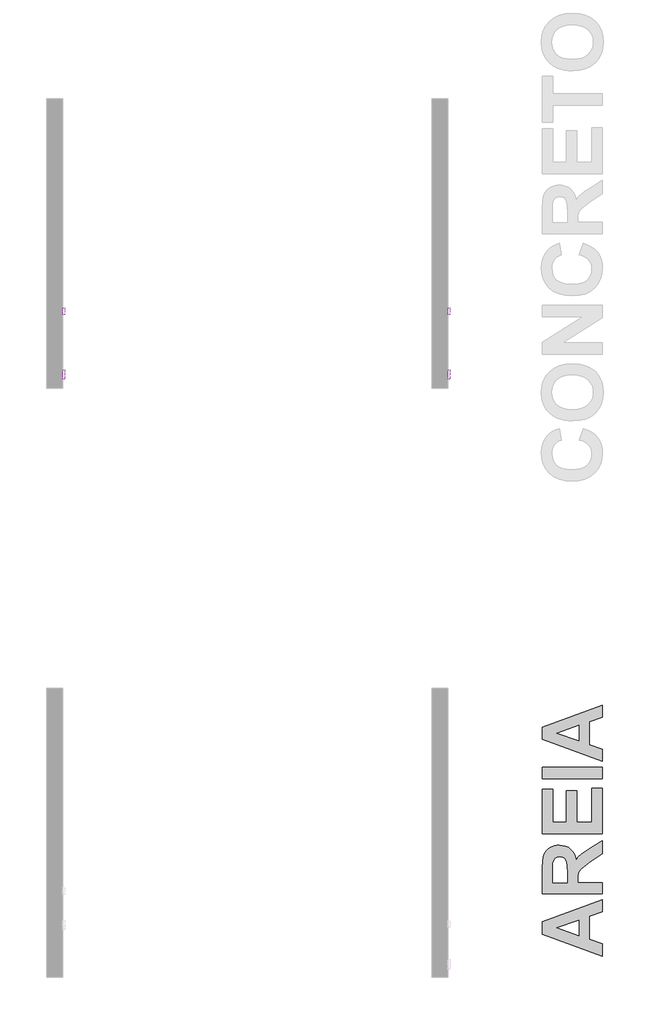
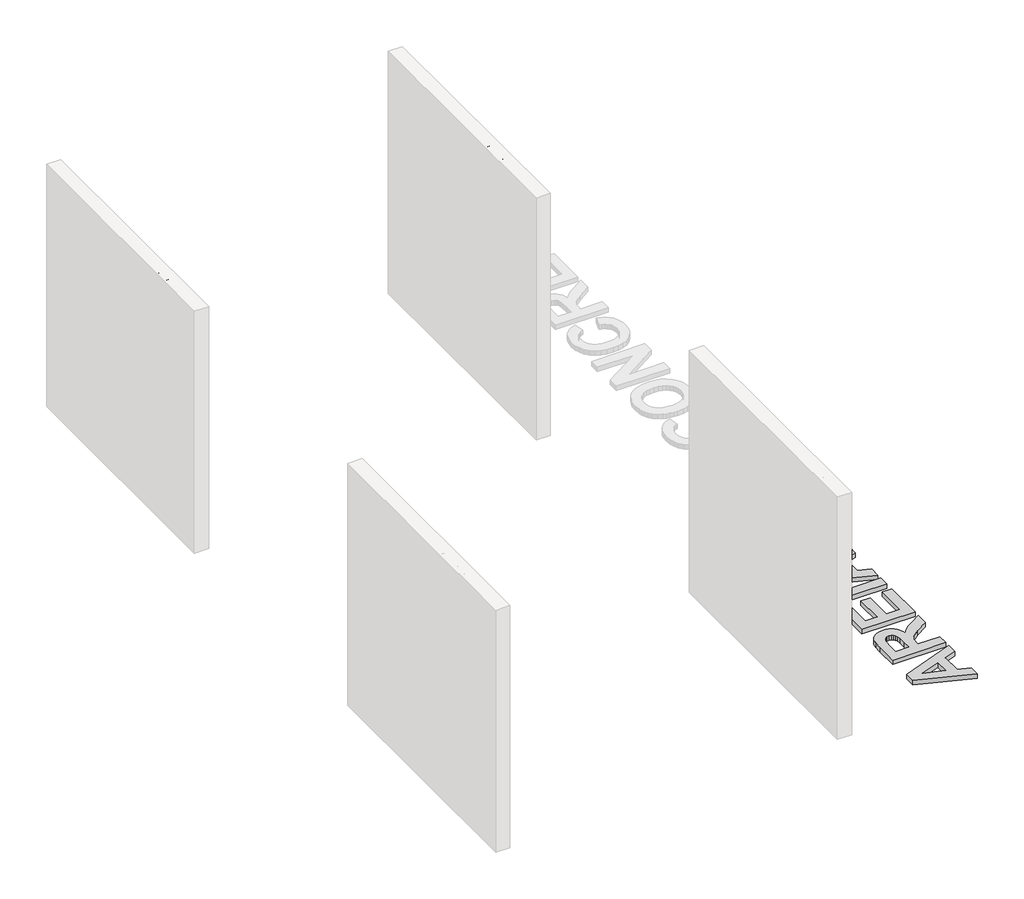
# One storey, part 2 of 6: 5 proxies.
"""IFC4 building model written with IfcOpenShell, lengths in millimetres."""

from ifc_helpers import new_model, si_unit, frame, origin, origin_with_axes, place, context, project, spatial, polyline, outline, extrude, element, save

model = new_model("IFC4")

# Units and contexts
model_context = context("Model", 3, world=origin())
ifc_project = project(units=[si_unit("LENGTHUNIT", "METRE", prefix="MILLI")], contexts=[model_context])

# Site, building, storey
site = spatial("IfcSite", under=ifc_project)
building = spatial("IfcBuilding", under=site)
storey = spatial("IfcBuildingStorey", under=building, Name="PORTOBELLO - SHOWROOM", Elevation=0.0)

# Proxies
placement = place(None, origin())
element("IfcBuildingElementProxy", 1, Name="10mm Arial", ObjectType="10mm Arial", at=placement, inside=storey, context=model_context, shape_type="SweptSolid", body=[
    extrude(outline(polyline([(-3637.3091823, 2554.1836467), (-3624.7521435, 2550.9462851), (-3630.5462849, 2536.3137787), (-3639.6391016, 2525.6237411), (-3651.5830037, 2519.0846386), (-3665.9304015, 2516.9049378), (-3680.4954628, 2518.5542754), (-3692.0622859, 2523.5022883), (-3700.928242, 2531.5772981), (-3707.3907024, 2542.6076265), (-3712.6514149, 2569.4630122), (-3711.1645585, 2584.110847), (-3706.7039893, 2596.7598562), (-3699.5026993, 2607.0084355), (-3689.7936803, 2614.4549802), (-3678.2789738, 2618.9891258), (-3665.6606214, 2620.5005077), (-3651.8926377, 2618.5446017), (-3640.5097556, 2612.6768839), (-3631.8675944, 2603.2591048), (-3626.3217734, 2590.6530151), (-3638.8788121, 2587.6609082), (-3649.179508, 2603.0996893), (-3666.1511307, 2607.9434689), (-3685.7960293, 2602.5723918), (-3696.8938028, 2588.1514175), (-3700.0943761, 2569.4875377), (-3696.3051916, 2547.8560763), (-3684.5084423, 2534.0359761), (-3667.1812003, 2529.4619766), (-3656.6996291, 2531.0193437), (-3647.9654974, 2535.691445), (-3641.3712127, 2543.4292297), (-3637.3091823, 2554.1836467)])), frame((-22426.2609603, 0.0, 0.0), z_axis=(1.0, 0.0, 0.0), x_axis=(0.0, 1.0, 0.0)), (0.0, 0.0, 1.0), 20.0),
    extrude(outline(polyline([(-3612.1951048, 2555.360869), (-3609.4789094, 2573.1479635), (-3601.3303232, 2585.64982), (-3591.2626192, 2591.7750552), (-3579.2083525, 2593.8168003), (-3566.0167173, 2591.3305311), (-3555.4799638, 2583.8717237), (-3548.5729794, 2572.0289891), (-3546.2706512, 2556.3909386), (-3550.3418786, 2534.0482388), (-3562.1999416, 2521.4053609), (-3579.2083525, 2516.9049378), (-3592.5594033, 2519.3820099), (-3603.083894, 2526.8132262), (-3609.9173021, 2538.9042811), (-3612.1951048, 2555.360869)]), holes=[polyline([(-3599.638066, 2555.3853945), (-3598.1849321, 2544.0209065), (-3593.8255305, 2535.924437), (-3587.2649682, 2531.0775917), (-3579.2083525, 2529.4619766), (-3571.188525, 2531.0867887), (-3564.6402255, 2535.9612252), (-3560.2808239, 2544.1649937), (-3558.82769, 2555.777802), (-3560.2900209, 2566.8111961), (-3564.6770137, 2574.7973011), (-3571.2345103, 2579.6441464), (-3579.2083525, 2581.2597615), (-3587.2649682, 2579.6502778), (-3593.8255305, 2574.8218266), (-3598.1849321, 2566.7437511), (-3599.638066, 2555.3853945)])]), frame((-22426.2609603, 0.0, 0.0), z_axis=(1.0, 0.0, 0.0), x_axis=(0.0, 1.0, 0.0)), (0.0, 0.0, 1.0), 20.0),
    extrude(outline(polyline([(-3532.1439826, 2518.4745677), (-3532.1439826, 2592.2471704), (-3519.5869438, 2592.2471704), (-3519.5869438, 2581.9464746), (-3509.9852238, 2590.8492188), (-3496.876362, 2593.8168003), (-3485.018299, 2591.4255673), (-3476.9248951, 2585.1470479), (-3473.160236, 2575.9132098), (-3472.4980485, 2563.773104), (-3472.4980485, 2518.4745677), (-3485.0550872, 2518.4745677), (-3485.0550872, 2562.0808468), (-3486.5020897, 2573.1908831), (-3491.6156495, 2579.0647323), (-3500.2363509, 2581.2597615), (-3513.8602474, 2576.3301428), (-3518.1552697, 2569.1871007), (-3519.5869438, 2557.6172119), (-3519.5869438, 2518.4745677), (-3532.1439826, 2518.4745677)])), frame((-22426.2609603, 0.0, 0.0), z_axis=(1.0, 0.0, 0.0), x_axis=(0.0, 1.0, 0.0)), (0.0, 0.0, 1.0), 20.0),
    extrude(outline(polyline([(-3408.1432248, 2545.158275), (-3395.586186, 2543.5886452), (-3399.0871963, 2532.420361), (-3405.6661527, 2523.9805349), (-3414.703787, 2518.6738371), (-3425.5808313, 2516.9049378), (-3438.9380134, 2519.3728129), (-3449.3827964, 2526.776438), (-3456.124234, 2538.7908508), (-3458.3713798, 2555.0910889), (-3454.5331444, 2575.949998), (-3442.8344969, 2589.3531654), (-3425.7525096, 2593.8168003), (-3415.1421797, 2592.2839586), (-3406.659434, 2587.6854337), (-3400.5740527, 2580.2664801), (-3397.1558158, 2570.2723526), (-3409.7128546, 2568.7027227), (-3415.5376529, 2578.1082391), (-3425.6544077, 2581.2597615), (-3433.7692714, 2579.7085258), (-3440.210272, 2575.0548185), (-3444.4133238, 2567.0472538), (-3445.8143411, 2555.4344454), (-3444.4439806, 2543.6652873), (-3440.3328993, 2535.6301314), (-3434.0083947, 2531.0040153), (-3425.9977643, 2529.4619766), (-3414.1642267, 2533.3124748), (-3408.1432248, 2545.158275)])), frame((-22426.2609603, 0.0, 0.0), z_axis=(1.0, 0.0, 0.0), x_axis=(0.0, 1.0, 0.0)), (0.0, 0.0, 1.0), 20.0),
    extrude(outline(polyline([(-3384.5987771, 2518.4745677), (-3384.5987771, 2592.2471704), (-3373.6113681, 2592.2471704), (-3373.6113681, 2581.3333379), (-3365.8122698, 2591.3887791), (-3357.9641206, 2593.8168003), (-3345.3580309, 2589.9417766), (-3349.5518857, 2578.6845875), (-3358.3810535, 2581.2597615), (-3365.4811761, 2578.7826894), (-3370.0061246, 2571.9155588), (-3372.0417383, 2557.24933), (-3372.0417383, 2518.4745677), (-3384.5987771, 2518.4745677)])), frame((-22426.2609603, 0.0, 0.0), z_axis=(1.0, 0.0, 0.0), x_axis=(0.0, 1.0, 0.0)), (0.0, 0.0, 1.0), 20.0),
    extrude(outline(polyline([(-3285.8592496, 2540.4493855), (-3273.5474655, 2538.8797557), (-3277.9835092, 2529.602998), (-3285.0621719, 2522.6684224), (-3294.6240381, 2518.345809), (-3306.5096922, 2516.9049378), (-3321.2433661, 2519.391207), (-3332.580263, 2526.8500144), (-3339.8091442, 2538.7969822), (-3342.2187712, 2554.7477324), (-3339.7846187, 2571.2349771), (-3332.4821611, 2583.5651553), (-3321.2985484, 2591.253889), (-3307.2209308, 2593.8168003), (-3293.5817058, 2591.2600204), (-3282.6832017, 2583.5896808), (-3275.5370939, 2571.2840281), (-3273.155058, 2554.8213088), (-3273.2286344, 2551.4367944), (-3329.6617325, 2551.4367944), (-3327.488163, 2542.0374095), (-3322.4389826, 2535.1273593), (-3315.1518534, 2530.8783223), (-3306.2644376, 2529.4619766), (-3293.9526535, 2532.0862015), (-3285.8592496, 2540.4493855)]), holes=[polyline([(-3329.6617325, 2563.9938332), (-3285.7120968, 2563.9938332), (-3290.7398174, 2575.3736496), (-3298.0606691, 2579.7882335), (-3307.2699817, 2581.2597615), (-3322.7332882, 2576.5631347), (-3327.5985276, 2571.0724959), (-3329.6617325, 2563.9938332)])]), frame((-22426.2609603, 0.0, 0.0), z_axis=(1.0, 0.0, 0.0), x_axis=(0.0, 1.0, 0.0)), (0.0, 0.0, 1.0), 20.0),
    extrude(outline(polyline([(-3233.9143118, 2528.9469418), (-3232.344682, 2518.1066857), (-3241.7379356, 2516.9049378), (-3252.2593607, 2518.9896025), (-3257.5078105, 2524.4587815), (-3259.0283894, 2538.7080774), (-3259.0283894, 2579.6901317), (-3268.4461685, 2579.6901317), (-3268.4461685, 2592.2471704), (-3259.0283894, 2592.2471704), (-3259.0283894, 2610.1752863), (-3246.4713506, 2617.5574517), (-3246.4713506, 2592.2471704), (-3233.9143118, 2592.2471704), (-3233.9143118, 2579.6901317), (-3246.4713506, 2579.6901317), (-3246.4713506, 2539.0759594), (-3245.809163, 2532.6012363), (-3243.6631847, 2530.3081052), (-3239.3834908, 2529.4619766), (-3233.9143118, 2528.9469418)])), frame((-22426.2609603, 0.0, 0.0), z_axis=(1.0, 0.0, 0.0), x_axis=(0.0, 1.0, 0.0)), (0.0, 0.0, 1.0), 20.0),
    extrude(outline(polyline([(-3224.4965328, 2555.360869), (-3221.7803374, 2573.1479635), (-3213.6317512, 2585.64982), (-3203.5640472, 2591.7750552), (-3191.5097805, 2593.8168003), (-3178.3181453, 2591.3305311), (-3167.7813918, 2583.8717237), (-3160.8744074, 2572.0289891), (-3158.5720792, 2556.3909386), (-3162.6433066, 2534.0482388), (-3174.5013696, 2521.4053609), (-3191.5097805, 2516.9049378), (-3204.8608313, 2519.3820099), (-3215.385322, 2526.8132262), (-3222.2187301, 2538.9042811), (-3224.4965328, 2555.360869)]), holes=[polyline([(-3211.939494, 2555.3853945), (-3210.4863601, 2544.0209065), (-3206.1269585, 2535.924437), (-3199.5663962, 2531.0775917), (-3191.5097805, 2529.4619766), (-3183.489953, 2531.0867887), (-3176.9416535, 2535.9612252), (-3172.5822519, 2544.1649937), (-3171.129118, 2555.777802), (-3172.5914489, 2566.8111961), (-3176.9784417, 2574.7973011), (-3183.5359383, 2579.6441464), (-3191.5097805, 2581.2597615), (-3199.5663962, 2579.6502778), (-3206.1269585, 2574.8218266), (-3210.4863601, 2566.7437511), (-3211.939494, 2555.3853945)])]), frame((-22426.2609603, 0.0, 0.0), z_axis=(1.0, 0.0, 0.0), x_axis=(0.0, 1.0, 0.0)), (0.0, 0.0, 1.0), 20.0),
])
element("IfcBuildingElementProxy", 2, Name="10mm Arial", ObjectType="10mm Arial", at=placement, inside=storey, context=model_context, shape_type="SweptSolid", body=[
    extrude(outline(polyline([(-3637.3091823, 2554.1836467), (-3624.7521435, 2550.9462851), (-3630.5462849, 2536.3137787), (-3639.6391016, 2525.6237411), (-3651.5830037, 2519.0846386), (-3665.9304015, 2516.9049378), (-3680.4954628, 2518.5542754), (-3692.0622859, 2523.5022883), (-3700.928242, 2531.5772981), (-3707.3907024, 2542.6076265), (-3712.6514149, 2569.4630122), (-3711.1645585, 2584.110847), (-3706.7039893, 2596.7598562), (-3699.5026993, 2607.0084355), (-3689.7936803, 2614.4549802), (-3678.2789738, 2618.9891258), (-3665.6606214, 2620.5005077), (-3651.8926377, 2618.5446017), (-3640.5097556, 2612.6768839), (-3631.8675944, 2603.2591048), (-3626.3217734, 2590.6530151), (-3638.8788121, 2587.6609082), (-3649.179508, 2603.0996893), (-3666.1511307, 2607.9434689), (-3685.7960293, 2602.5723918), (-3696.8938028, 2588.1514175), (-3700.0943761, 2569.4875377), (-3696.3051916, 2547.8560763), (-3684.5084423, 2534.0359761), (-3667.1812003, 2529.4619766), (-3656.6996291, 2531.0193437), (-3647.9654974, 2535.691445), (-3641.3712127, 2543.4292297), (-3637.3091823, 2554.1836467)])), frame((-18826.2609603, 0.0, 0.0), z_axis=(1.0, 0.0, 0.0), x_axis=(0.0, 1.0, 0.0)), (0.0, 0.0, 1.0), 20.0),
    extrude(outline(polyline([(-3612.1951048, 2555.360869), (-3609.4789094, 2573.1479635), (-3601.3303232, 2585.64982), (-3591.2626192, 2591.7750552), (-3579.2083525, 2593.8168003), (-3566.0167173, 2591.3305311), (-3555.4799638, 2583.8717237), (-3548.5729794, 2572.0289891), (-3546.2706512, 2556.3909386), (-3550.3418786, 2534.0482388), (-3562.1999416, 2521.4053609), (-3579.2083525, 2516.9049378), (-3592.5594033, 2519.3820099), (-3603.083894, 2526.8132262), (-3609.9173021, 2538.9042811), (-3612.1951048, 2555.360869)]), holes=[polyline([(-3599.638066, 2555.3853945), (-3598.1849321, 2544.0209065), (-3593.8255305, 2535.924437), (-3587.2649682, 2531.0775917), (-3579.2083525, 2529.4619766), (-3571.188525, 2531.0867887), (-3564.6402255, 2535.9612252), (-3560.2808239, 2544.1649937), (-3558.82769, 2555.777802), (-3560.2900209, 2566.8111961), (-3564.6770137, 2574.7973011), (-3571.2345103, 2579.6441464), (-3579.2083525, 2581.2597615), (-3587.2649682, 2579.6502778), (-3593.8255305, 2574.8218266), (-3598.1849321, 2566.7437511), (-3599.638066, 2555.3853945)])]), frame((-18826.2609603, 0.0, 0.0), z_axis=(1.0, 0.0, 0.0), x_axis=(0.0, 1.0, 0.0)), (0.0, 0.0, 1.0), 20.0),
    extrude(outline(polyline([(-3532.1439826, 2518.4745677), (-3532.1439826, 2592.2471704), (-3519.5869438, 2592.2471704), (-3519.5869438, 2581.9464746), (-3509.9852238, 2590.8492188), (-3496.876362, 2593.8168003), (-3485.018299, 2591.4255673), (-3476.9248951, 2585.1470479), (-3473.160236, 2575.9132098), (-3472.4980485, 2563.773104), (-3472.4980485, 2518.4745677), (-3485.0550872, 2518.4745677), (-3485.0550872, 2562.0808468), (-3486.5020897, 2573.1908831), (-3491.6156495, 2579.0647323), (-3500.2363509, 2581.2597615), (-3513.8602474, 2576.3301428), (-3518.1552697, 2569.1871007), (-3519.5869438, 2557.6172119), (-3519.5869438, 2518.4745677), (-3532.1439826, 2518.4745677)])), frame((-18826.2609603, 0.0, 0.0), z_axis=(1.0, 0.0, 0.0), x_axis=(0.0, 1.0, 0.0)), (0.0, 0.0, 1.0), 20.0),
    extrude(outline(polyline([(-3408.1432248, 2545.158275), (-3395.586186, 2543.5886452), (-3399.0871963, 2532.420361), (-3405.6661527, 2523.9805349), (-3414.703787, 2518.6738371), (-3425.5808313, 2516.9049378), (-3438.9380134, 2519.3728129), (-3449.3827964, 2526.776438), (-3456.124234, 2538.7908508), (-3458.3713798, 2555.0910889), (-3454.5331444, 2575.949998), (-3442.8344969, 2589.3531654), (-3425.7525096, 2593.8168003), (-3415.1421797, 2592.2839586), (-3406.659434, 2587.6854337), (-3400.5740527, 2580.2664801), (-3397.1558158, 2570.2723526), (-3409.7128546, 2568.7027227), (-3415.5376529, 2578.1082391), (-3425.6544077, 2581.2597615), (-3433.7692714, 2579.7085258), (-3440.210272, 2575.0548185), (-3444.4133238, 2567.0472538), (-3445.8143411, 2555.4344454), (-3444.4439806, 2543.6652873), (-3440.3328993, 2535.6301314), (-3434.0083947, 2531.0040153), (-3425.9977643, 2529.4619766), (-3414.1642267, 2533.3124748), (-3408.1432248, 2545.158275)])), frame((-18826.2609603, 0.0, 0.0), z_axis=(1.0, 0.0, 0.0), x_axis=(0.0, 1.0, 0.0)), (0.0, 0.0, 1.0), 20.0),
    extrude(outline(polyline([(-3384.5987771, 2518.4745677), (-3384.5987771, 2592.2471704), (-3373.6113681, 2592.2471704), (-3373.6113681, 2581.3333379), (-3365.8122698, 2591.3887791), (-3357.9641206, 2593.8168003), (-3345.3580309, 2589.9417766), (-3349.5518857, 2578.6845875), (-3358.3810535, 2581.2597615), (-3365.4811761, 2578.7826894), (-3370.0061246, 2571.9155588), (-3372.0417383, 2557.24933), (-3372.0417383, 2518.4745677), (-3384.5987771, 2518.4745677)])), frame((-18826.2609603, 0.0, 0.0), z_axis=(1.0, 0.0, 0.0), x_axis=(0.0, 1.0, 0.0)), (0.0, 0.0, 1.0), 20.0),
    extrude(outline(polyline([(-3285.8592496, 2540.4493855), (-3273.5474655, 2538.8797557), (-3277.9835092, 2529.602998), (-3285.0621719, 2522.6684224), (-3294.6240381, 2518.345809), (-3306.5096922, 2516.9049378), (-3321.2433661, 2519.391207), (-3332.580263, 2526.8500144), (-3339.8091442, 2538.7969822), (-3342.2187712, 2554.7477324), (-3339.7846187, 2571.2349771), (-3332.4821611, 2583.5651553), (-3321.2985484, 2591.253889), (-3307.2209308, 2593.8168003), (-3293.5817058, 2591.2600204), (-3282.6832017, 2583.5896808), (-3275.5370939, 2571.2840281), (-3273.155058, 2554.8213088), (-3273.2286344, 2551.4367944), (-3329.6617325, 2551.4367944), (-3327.488163, 2542.0374095), (-3322.4389826, 2535.1273593), (-3315.1518534, 2530.8783223), (-3306.2644376, 2529.4619766), (-3293.9526535, 2532.0862015), (-3285.8592496, 2540.4493855)]), holes=[polyline([(-3329.6617325, 2563.9938332), (-3285.7120968, 2563.9938332), (-3290.7398174, 2575.3736496), (-3298.0606691, 2579.7882335), (-3307.2699817, 2581.2597615), (-3322.7332882, 2576.5631347), (-3327.5985276, 2571.0724959), (-3329.6617325, 2563.9938332)])]), frame((-18826.2609603, 0.0, 0.0), z_axis=(1.0, 0.0, 0.0), x_axis=(0.0, 1.0, 0.0)), (0.0, 0.0, 1.0), 20.0),
    extrude(outline(polyline([(-3233.9143118, 2528.9469418), (-3232.344682, 2518.1066857), (-3241.7379356, 2516.9049378), (-3252.2593607, 2518.9896025), (-3257.5078105, 2524.4587815), (-3259.0283894, 2538.7080774), (-3259.0283894, 2579.6901317), (-3268.4461685, 2579.6901317), (-3268.4461685, 2592.2471704), (-3259.0283894, 2592.2471704), (-3259.0283894, 2610.1752863), (-3246.4713506, 2617.5574517), (-3246.4713506, 2592.2471704), (-3233.9143118, 2592.2471704), (-3233.9143118, 2579.6901317), (-3246.4713506, 2579.6901317), (-3246.4713506, 2539.0759594), (-3245.809163, 2532.6012363), (-3243.6631847, 2530.3081052), (-3239.3834908, 2529.4619766), (-3233.9143118, 2528.9469418)])), frame((-18826.2609603, 0.0, 0.0), z_axis=(1.0, 0.0, 0.0), x_axis=(0.0, 1.0, 0.0)), (0.0, 0.0, 1.0), 20.0),
    extrude(outline(polyline([(-3224.4965328, 2555.360869), (-3221.7803374, 2573.1479635), (-3213.6317512, 2585.64982), (-3203.5640472, 2591.7750552), (-3191.5097805, 2593.8168003), (-3178.3181453, 2591.3305311), (-3167.7813918, 2583.8717237), (-3160.8744074, 2572.0289891), (-3158.5720792, 2556.3909386), (-3162.6433066, 2534.0482388), (-3174.5013696, 2521.4053609), (-3191.5097805, 2516.9049378), (-3204.8608313, 2519.3820099), (-3215.385322, 2526.8132262), (-3222.2187301, 2538.9042811), (-3224.4965328, 2555.360869)]), holes=[polyline([(-3211.939494, 2555.3853945), (-3210.4863601, 2544.0209065), (-3206.1269585, 2535.924437), (-3199.5663962, 2531.0775917), (-3191.5097805, 2529.4619766), (-3183.489953, 2531.0867887), (-3176.9416535, 2535.9612252), (-3172.5822519, 2544.1649937), (-3171.129118, 2555.777802), (-3172.5914489, 2566.8111961), (-3176.9784417, 2574.7973011), (-3183.5359383, 2579.6441464), (-3191.5097805, 2581.2597615), (-3199.5663962, 2579.6502778), (-3206.1269585, 2574.8218266), (-3210.4863601, 2566.7437511), (-3211.939494, 2555.3853945)])]), frame((-18826.2609603, 0.0, 0.0), z_axis=(1.0, 0.0, 0.0), x_axis=(0.0, 1.0, 0.0)), (0.0, 0.0, 1.0), 20.0),
])
element("IfcBuildingElementProxy", 3, Name="10mm Arial Narrow", ObjectType="10mm Arial Narrow", at=placement, inside=storey, context=model_context, shape_type="SweptSolid", body=[
    extrude(outline(polyline([(-3110.6286257, 2518.4745677), (-3110.6286257, 2619.1931714), (-3079.3317411, 2619.1931714), (-3063.0360395, 2617.3148507), (-3051.5630534, 2607.8344075), (-3047.273375, 2590.8152987), (-3049.0596834, 2578.7394731), (-3054.4186086, 2569.1130794), (-3064.1623974, 2562.811821), (-3079.1032966, 2560.7114015), (-3100.8816641, 2560.7114015), (-3100.8816641, 2518.4745677), (-3110.6286257, 2518.4745677)]), holes=[polyline([(-3100.8816641, 2572.0828568), (-3077.9103091, 2572.0828568), (-3062.0461137, 2576.613671), (-3057.0203366, 2590.2822617), (-3059.4951511, 2600.4480381), (-3065.47278, 2606.247988), (-3078.1387536, 2607.8217162), (-3100.8816641, 2607.8217162), (-3100.8816641, 2572.0828568)])]), frame((-22426.2609603, 0.0, 0.0), z_axis=(1.0, 0.0, 0.0), x_axis=(0.0, 1.0, 0.0)), (0.0, 0.0, 1.0), 20.0),
    extrude(outline(polyline([(-3039.1509069, 2555.0256739), (-3037.1964381, 2571.6164494), (-3031.3330315, 2583.5685342), (-3022.4744647, 2590.7930888), (-3011.5345156, 2593.2012737), (-3000.72148, 2590.7930888), (-2991.8375306, 2583.5685342), (-2985.8979758, 2571.8068198), (-2983.9181242, 2555.7871552), (-2985.8630746, 2538.6252687), (-2991.6979257, 2526.4828135), (-3000.5469739, 2519.2582589), (-3011.5345156, 2516.8500741), (-3022.3951438, 2519.2646046), (-3031.2695747, 2526.5081962), (-3037.1805739, 2538.4666267), (-3039.1509069, 2555.0256739)]), holes=[polyline([(-3029.4039453, 2555.0510566), (-3028.0999084, 2542.4993052), (-3024.1877978, 2533.6280471), (-3018.3466011, 2528.3547886), (-3011.2553058, 2526.5970357), (-3004.5352326, 2528.3706528), (-2998.8431593, 2533.6915039), (-2994.9596042, 2542.5786262), (-2993.6650859, 2555.0510566), (-2994.9691228, 2567.5647339), (-2998.8812333, 2576.4233006), (-3004.7224301, 2581.6965592), (-3011.8137254, 2583.454312), (-3018.5813912, 2581.6870407), (-3024.263946, 2576.3852265), (-3028.1189455, 2567.5171413), (-3029.4039453, 2555.0510566)])]), frame((-22426.2609603, 0.0, 0.0), z_axis=(1.0, 0.0, 0.0), x_axis=(0.0, 1.0, 0.0)), (0.0, 0.0, 1.0), 20.0),
    extrude(outline(polyline([(-2912.4404054, 2526.5970357), (-2910.8159118, 2516.8500741), (-2918.1768985, 2516.8500741), (-2926.4516628, 2518.9695306), (-2930.766724, 2524.7694804), (-2931.9343288, 2539.4153056), (-2931.9343288, 2581.8298184), (-2940.0567968, 2581.8298184), (-2940.0567968, 2585.0788056), (-2941.6812904, 2580.2053248), (-2949.2453388, 2581.8298184), (-2955.3244985, 2579.5073002), (-2959.1953621, 2573.0220171), (-2961.1752137, 2557.6147106), (-2961.1752137, 2518.4745677), (-2970.9221754, 2518.4745677), (-2970.9221754, 2591.5767801), (-2961.1752137, 2591.5767801), (-2961.1752137, 2581.8805838), (-2954.9310664, 2590.967595), (-2948.5346228, 2593.2012737), (-2940.0567968, 2591.5767801), (-2931.9343288, 2591.5767801), (-2931.9343288, 2607.8217162), (-2922.1873671, 2615.9441842), (-2922.1873671, 2591.5767801), (-2912.4404054, 2591.5767801), (-2912.4404054, 2581.8298184), (-2922.1873671, 2581.8298184), (-2922.1873671, 2537.1816269), (-2921.3243549, 2529.1860724), (-2916.7047012, 2526.5970357), (-2912.4404054, 2526.5970357)])), frame((-22426.2609603, 0.0, 0.0), z_axis=(1.0, 0.0, 0.0), x_axis=(0.0, 1.0, 0.0)), (0.0, 0.0, 1.0), 20.0),
    extrude(outline(polyline([(-2905.942431, 2555.0256739), (-2903.9879621, 2571.6164494), (-2898.1245555, 2583.5685342), (-2889.2659888, 2590.7930888), (-2878.3260397, 2593.2012737), (-2867.5130041, 2590.7930888), (-2858.6290547, 2583.5685342), (-2852.6894999, 2571.8068198), (-2850.7096483, 2555.7871552), (-2852.6545987, 2538.6252687), (-2858.4894497, 2526.4828135), (-2867.3384979, 2519.2582589), (-2878.3260397, 2516.8500741), (-2889.1866678, 2519.2646046), (-2898.0610987, 2526.5081962), (-2903.9720979, 2538.4666267), (-2905.942431, 2555.0256739)]), holes=[polyline([(-2896.1954694, 2555.0510566), (-2894.8914325, 2542.4993052), (-2890.9793219, 2533.6280471), (-2885.1381252, 2528.3547886), (-2878.0468298, 2526.5970357), (-2871.3267567, 2528.3706528), (-2865.6346833, 2533.6915039), (-2861.7511283, 2542.5786262), (-2860.45661, 2555.0510566), (-2861.7606468, 2567.5647339), (-2865.6727574, 2576.4233006), (-2871.5139542, 2581.6965592), (-2878.6052495, 2583.454312), (-2885.3729153, 2581.6870407), (-2891.05547, 2576.3852265), (-2894.9104695, 2567.5171413), (-2896.1954694, 2555.0510566)])]), frame((-22426.2609603, 0.0, 0.0), z_axis=(1.0, 0.0, 0.0), x_axis=(0.0, 1.0, 0.0)), (0.0, 0.0, 1.0), 20.0),
    extrude(outline(polyline([(-2827.9667378, 2518.4745677), (-2837.7136994, 2518.4745677), (-2837.7136994, 2619.1931714), (-2827.9667378, 2619.1931714), (-2827.9667378, 2583.7842873), (-2820.5676771, 2590.8660641), (-2811.3664437, 2593.2012737), (-2798.4847171, 2589.0004347), (-2789.2073356, 2576.2710043), (-2785.729904, 2555.5840935), (-2787.662163, 2539.1297501), (-2793.45894, 2526.927011), (-2801.8320623, 2519.3693083), (-2811.4933573, 2516.8500741), (-2820.8341955, 2519.4644935), (-2827.9667378, 2527.2316035), (-2827.9667378, 2518.4745677)]), holes=[polyline([(-2827.9667378, 2555.5840935), (-2825.8853553, 2538.3365403), (-2819.996566, 2529.6048872), (-2811.5441227, 2526.5970357), (-2805.6013951, 2528.3865169), (-2800.3630378, 2533.7549607), (-2795.4768656, 2555.1779701), (-2800.1853588, 2576.613671), (-2805.4300618, 2581.7441518), (-2811.7471844, 2583.454312), (-2817.7248132, 2581.6648308), (-2823.0171088, 2576.2963871), (-2827.9667378, 2555.5840935)])]), frame((-22426.2609603, 0.0, 0.0), z_axis=(1.0, 0.0, 0.0), x_axis=(0.0, 1.0, 0.0)), (0.0, 0.0, 1.0), 20.0),
    extrude(outline(polyline([(-2733.7461085, 2541.2174782), (-2723.9991468, 2539.5929846), (-2727.6986772, 2529.706418), (-2733.5176641, 2522.5865671), (-2741.2213173, 2518.2841973), (-2750.5748469, 2516.8500741), (-2762.1684009, 2519.2646046), (-2771.3125232, 2526.5081962), (-2777.2520779, 2538.3143304), (-2779.2319295, 2554.4164888), (-2777.2425594, 2571.0834124), (-2771.2744491, 2583.2639417), (-2762.2604133, 2590.7169407), (-2751.1332666, 2593.2012737), (-2740.4503174, 2590.8026073), (-2731.7028001, 2583.6066083), (-2725.867949, 2571.8671037), (-2723.9229987, 2555.8379207), (-2723.9991468, 2552.5889335), (-2769.4849679, 2552.5889335), (-2763.4819563, 2533.1457756), (-2757.5519201, 2528.2342207), (-2750.4479334, 2526.5970357), (-2740.2694656, 2530.2521463), (-2733.7461085, 2541.2174782)]), holes=[polyline([(-2768.8250173, 2562.3358951), (-2733.7461085, 2562.3358951), (-2738.0104042, 2576.6009796), (-2743.8357367, 2581.7409789), (-2751.0571185, 2583.454312), (-2763.2662033, 2577.7432017), (-2768.8250173, 2562.3358951)])]), frame((-22426.2609603, 0.0, 0.0), z_axis=(1.0, 0.0, 0.0), x_axis=(0.0, 1.0, 0.0)), (0.0, 0.0, 1.0), 20.0),
    extrude(outline(polyline([(-22406.2609603, -2701.2562363), (-22406.2609603, -2711.0031979), (-22426.2609603, -2711.0031979), (-22426.2609603, -2701.2562363), (-22406.2609603, -2701.2562363)])), frame((0.0, 0.0, 2518.4745677), z_axis=(0.0, 0.0, 1.0), x_axis=(1.0, 0.0, 0.0)), (0.0, 0.0, 1.0), 100.7186038),
    extrude(outline(polyline([(-22406.2609603, -2675.2643385), (-22406.2609603, -2685.0113002), (-22426.2609603, -2685.0113002), (-22426.2609603, -2675.2643385), (-22406.2609603, -2675.2643385)])), frame((0.0, 0.0, 2518.4745677), z_axis=(0.0, 0.0, 1.0), x_axis=(1.0, 0.0, 0.0)), (0.0, 0.0, 1.0), 100.7186038),
    extrude(outline(polyline([(-2663.8928833, 2555.0256739), (-2661.9384144, 2571.6164494), (-2656.0750078, 2583.5685342), (-2647.2164411, 2590.7930888), (-2636.2764919, 2593.2012737), (-2625.4634563, 2590.7930888), (-2616.5795069, 2583.5685342), (-2610.6399522, 2571.8068198), (-2608.6601006, 2555.7871552), (-2610.6050509, 2538.6252687), (-2616.439902, 2526.4828135), (-2625.2889502, 2519.2582589), (-2636.2764919, 2516.8500741), (-2647.1371201, 2519.2646046), (-2656.011551, 2526.5081962), (-2661.9225502, 2538.4666267), (-2663.8928833, 2555.0256739)]), holes=[polyline([(-2654.1459216, 2555.0510566), (-2652.8418848, 2542.4993052), (-2648.9297742, 2533.6280471), (-2643.0885774, 2528.3547886), (-2635.9972821, 2526.5970357), (-2629.2772089, 2528.3706528), (-2623.5851356, 2533.6915039), (-2619.7015806, 2542.5786262), (-2618.4070622, 2555.0510566), (-2619.7110991, 2567.5647339), (-2623.6232097, 2576.4233006), (-2629.4644064, 2581.6965592), (-2636.5557018, 2583.454312), (-2643.3233675, 2581.6870407), (-2649.0059223, 2576.3852265), (-2652.8609218, 2567.5171413), (-2654.1459216, 2555.0510566)])]), frame((-22426.2609603, 0.0, 0.0), z_axis=(1.0, 0.0, 0.0), x_axis=(0.0, 1.0, 0.0)), (0.0, 0.0, 1.0), 20.0),
])
element("IfcBuildingElementProxy", 4, Name="10mm Arial Narrow", ObjectType="10mm Arial Narrow", at=placement, inside=storey, context=model_context, shape_type="SweptSolid", body=[
    extrude(outline(polyline([(-3110.6286257, 2518.4745677), (-3110.6286257, 2619.1931714), (-3079.3317411, 2619.1931714), (-3063.0360395, 2617.3148507), (-3051.5630534, 2607.8344075), (-3047.273375, 2590.8152987), (-3049.0596834, 2578.7394731), (-3054.4186086, 2569.1130794), (-3064.1623974, 2562.811821), (-3079.1032966, 2560.7114015), (-3100.8816641, 2560.7114015), (-3100.8816641, 2518.4745677), (-3110.6286257, 2518.4745677)]), holes=[polyline([(-3100.8816641, 2572.0828568), (-3077.9103091, 2572.0828568), (-3062.0461137, 2576.613671), (-3057.0203366, 2590.2822617), (-3059.4951511, 2600.4480381), (-3065.47278, 2606.247988), (-3078.1387536, 2607.8217162), (-3100.8816641, 2607.8217162), (-3100.8816641, 2572.0828568)])]), frame((-18826.2609603, 0.0, 0.0), z_axis=(1.0, 0.0, 0.0), x_axis=(0.0, 1.0, 0.0)), (0.0, 0.0, 1.0), 20.0),
    extrude(outline(polyline([(-3039.1509069, 2555.0256739), (-3037.1964381, 2571.6164494), (-3031.3330315, 2583.5685342), (-3022.4744647, 2590.7930888), (-3011.5345156, 2593.2012737), (-3000.72148, 2590.7930888), (-2991.8375306, 2583.5685342), (-2985.8979758, 2571.8068198), (-2983.9181242, 2555.7871552), (-2985.8630746, 2538.6252687), (-2991.6979257, 2526.4828135), (-3000.5469739, 2519.2582589), (-3011.5345156, 2516.8500741), (-3022.3951438, 2519.2646046), (-3031.2695747, 2526.5081962), (-3037.1805739, 2538.4666267), (-3039.1509069, 2555.0256739)]), holes=[polyline([(-3029.4039453, 2555.0510566), (-3028.0999084, 2542.4993052), (-3024.1877978, 2533.6280471), (-3018.3466011, 2528.3547886), (-3011.2553058, 2526.5970357), (-3004.5352326, 2528.3706528), (-2998.8431593, 2533.6915039), (-2994.9596042, 2542.5786262), (-2993.6650859, 2555.0510566), (-2994.9691228, 2567.5647339), (-2998.8812333, 2576.4233006), (-3004.7224301, 2581.6965592), (-3011.8137254, 2583.454312), (-3018.5813912, 2581.6870407), (-3024.263946, 2576.3852265), (-3028.1189455, 2567.5171413), (-3029.4039453, 2555.0510566)])]), frame((-18826.2609603, 0.0, 0.0), z_axis=(1.0, 0.0, 0.0), x_axis=(0.0, 1.0, 0.0)), (0.0, 0.0, 1.0), 20.0),
    extrude(outline(polyline([(-2912.4404054, 2526.5970357), (-2910.8159118, 2516.8500741), (-2918.1768985, 2516.8500741), (-2926.4516628, 2518.9695306), (-2930.766724, 2524.7694804), (-2931.9343288, 2539.4153056), (-2931.9343288, 2581.8298184), (-2940.0567968, 2581.8298184), (-2940.0567968, 2585.0788056), (-2941.6812904, 2580.2053248), (-2949.2453388, 2581.8298184), (-2955.3244985, 2579.5073002), (-2959.1953621, 2573.0220171), (-2961.1752137, 2557.6147106), (-2961.1752137, 2518.4745677), (-2970.9221754, 2518.4745677), (-2970.9221754, 2591.5767801), (-2961.1752137, 2591.5767801), (-2961.1752137, 2581.8805838), (-2954.9310664, 2590.967595), (-2948.5346228, 2593.2012737), (-2940.0567968, 2591.5767801), (-2931.9343288, 2591.5767801), (-2931.9343288, 2607.8217162), (-2922.1873671, 2615.9441842), (-2922.1873671, 2591.5767801), (-2912.4404054, 2591.5767801), (-2912.4404054, 2581.8298184), (-2922.1873671, 2581.8298184), (-2922.1873671, 2537.1816269), (-2921.3243549, 2529.1860724), (-2916.7047012, 2526.5970357), (-2912.4404054, 2526.5970357)])), frame((-18826.2609603, 0.0, 0.0), z_axis=(1.0, 0.0, 0.0), x_axis=(0.0, 1.0, 0.0)), (0.0, 0.0, 1.0), 20.0),
    extrude(outline(polyline([(-2905.942431, 2555.0256739), (-2903.9879621, 2571.6164494), (-2898.1245555, 2583.5685342), (-2889.2659888, 2590.7930888), (-2878.3260397, 2593.2012737), (-2867.5130041, 2590.7930888), (-2858.6290547, 2583.5685342), (-2852.6894999, 2571.8068198), (-2850.7096483, 2555.7871552), (-2852.6545987, 2538.6252687), (-2858.4894497, 2526.4828135), (-2867.3384979, 2519.2582589), (-2878.3260397, 2516.8500741), (-2889.1866678, 2519.2646046), (-2898.0610987, 2526.5081962), (-2903.9720979, 2538.4666267), (-2905.942431, 2555.0256739)]), holes=[polyline([(-2896.1954694, 2555.0510566), (-2894.8914325, 2542.4993052), (-2890.9793219, 2533.6280471), (-2885.1381252, 2528.3547886), (-2878.0468298, 2526.5970357), (-2871.3267567, 2528.3706528), (-2865.6346833, 2533.6915039), (-2861.7511283, 2542.5786262), (-2860.45661, 2555.0510566), (-2861.7606468, 2567.5647339), (-2865.6727574, 2576.4233006), (-2871.5139542, 2581.6965592), (-2878.6052495, 2583.454312), (-2885.3729153, 2581.6870407), (-2891.05547, 2576.3852265), (-2894.9104695, 2567.5171413), (-2896.1954694, 2555.0510566)])]), frame((-18826.2609603, 0.0, 0.0), z_axis=(1.0, 0.0, 0.0), x_axis=(0.0, 1.0, 0.0)), (0.0, 0.0, 1.0), 20.0),
    extrude(outline(polyline([(-2827.9667378, 2518.4745677), (-2837.7136994, 2518.4745677), (-2837.7136994, 2619.1931714), (-2827.9667378, 2619.1931714), (-2827.9667378, 2583.7842873), (-2820.5676771, 2590.8660641), (-2811.3664437, 2593.2012737), (-2798.4847171, 2589.0004347), (-2789.2073356, 2576.2710043), (-2785.729904, 2555.5840935), (-2787.662163, 2539.1297501), (-2793.45894, 2526.927011), (-2801.8320623, 2519.3693083), (-2811.4933573, 2516.8500741), (-2820.8341955, 2519.4644935), (-2827.9667378, 2527.2316035), (-2827.9667378, 2518.4745677)]), holes=[polyline([(-2827.9667378, 2555.5840935), (-2825.8853553, 2538.3365403), (-2819.996566, 2529.6048872), (-2811.5441227, 2526.5970357), (-2805.6013951, 2528.3865169), (-2800.3630378, 2533.7549607), (-2795.4768656, 2555.1779701), (-2800.1853588, 2576.613671), (-2805.4300618, 2581.7441518), (-2811.7471844, 2583.454312), (-2817.7248132, 2581.6648308), (-2823.0171088, 2576.2963871), (-2827.9667378, 2555.5840935)])]), frame((-18826.2609603, 0.0, 0.0), z_axis=(1.0, 0.0, 0.0), x_axis=(0.0, 1.0, 0.0)), (0.0, 0.0, 1.0), 20.0),
    extrude(outline(polyline([(-2733.7461085, 2541.2174782), (-2723.9991468, 2539.5929846), (-2727.6986772, 2529.706418), (-2733.5176641, 2522.5865671), (-2741.2213173, 2518.2841973), (-2750.5748469, 2516.8500741), (-2762.1684009, 2519.2646046), (-2771.3125232, 2526.5081962), (-2777.2520779, 2538.3143304), (-2779.2319295, 2554.4164888), (-2777.2425594, 2571.0834124), (-2771.2744491, 2583.2639417), (-2762.2604133, 2590.7169407), (-2751.1332666, 2593.2012737), (-2740.4503174, 2590.8026073), (-2731.7028001, 2583.6066083), (-2725.867949, 2571.8671037), (-2723.9229987, 2555.8379207), (-2723.9991468, 2552.5889335), (-2769.4849679, 2552.5889335), (-2763.4819563, 2533.1457756), (-2757.5519201, 2528.2342207), (-2750.4479334, 2526.5970357), (-2740.2694656, 2530.2521463), (-2733.7461085, 2541.2174782)]), holes=[polyline([(-2768.8250173, 2562.3358951), (-2733.7461085, 2562.3358951), (-2738.0104042, 2576.6009796), (-2743.8357367, 2581.7409789), (-2751.0571185, 2583.454312), (-2763.2662033, 2577.7432017), (-2768.8250173, 2562.3358951)])]), frame((-18826.2609603, 0.0, 0.0), z_axis=(1.0, 0.0, 0.0), x_axis=(0.0, 1.0, 0.0)), (0.0, 0.0, 1.0), 20.0),
    extrude(outline(polyline([(-18806.2609603, -2701.2562363), (-18806.2609603, -2711.0031979), (-18826.2609603, -2711.0031979), (-18826.2609603, -2701.2562363), (-18806.2609603, -2701.2562363)])), frame((0.0, 0.0, 2518.4745677), z_axis=(0.0, 0.0, 1.0), x_axis=(1.0, 0.0, 0.0)), (0.0, 0.0, 1.0), 100.7186038),
    extrude(outline(polyline([(-18806.2609603, -2675.2643385), (-18806.2609603, -2685.0113002), (-18826.2609603, -2685.0113002), (-18826.2609603, -2675.2643385), (-18806.2609603, -2675.2643385)])), frame((0.0, 0.0, 2518.4745677), z_axis=(0.0, 0.0, 1.0), x_axis=(1.0, 0.0, 0.0)), (0.0, 0.0, 1.0), 100.7186038),
    extrude(outline(polyline([(-2663.8928833, 2555.0256739), (-2661.9384144, 2571.6164494), (-2656.0750078, 2583.5685342), (-2647.2164411, 2590.7930888), (-2636.2764919, 2593.2012737), (-2625.4634563, 2590.7930888), (-2616.5795069, 2583.5685342), (-2610.6399522, 2571.8068198), (-2608.6601006, 2555.7871552), (-2610.6050509, 2538.6252687), (-2616.439902, 2526.4828135), (-2625.2889502, 2519.2582589), (-2636.2764919, 2516.8500741), (-2647.1371201, 2519.2646046), (-2656.011551, 2526.5081962), (-2661.9225502, 2538.4666267), (-2663.8928833, 2555.0256739)]), holes=[polyline([(-2654.1459216, 2555.0510566), (-2652.8418848, 2542.4993052), (-2648.9297742, 2533.6280471), (-2643.0885774, 2528.3547886), (-2635.9972821, 2526.5970357), (-2629.2772089, 2528.3706528), (-2623.5851356, 2533.6915039), (-2619.7015806, 2542.5786262), (-2618.4070622, 2555.0510566), (-2619.7110991, 2567.5647339), (-2623.6232097, 2576.4233006), (-2629.4644064, 2581.6965592), (-2636.5557018, 2583.454312), (-2643.3233675, 2581.6870407), (-2649.0059223, 2576.3852265), (-2652.8609218, 2567.5171413), (-2654.1459216, 2555.0510566)])]), frame((-18826.2609603, 0.0, 0.0), z_axis=(1.0, 0.0, 0.0), x_axis=(0.0, 1.0, 0.0)), (0.0, 0.0, 1.0), 20.0),
])
element("IfcBuildingElementProxy", 5, Name="550mm Arial", ObjectType="550mm Arial", at=placement, inside=storey, context=model_context, shape_type="SweptSolid", body=[
    extrude(outline(polyline([(-17383.4014648, -8572.058402), (-17383.4014648, -8684.3704393), (-17508.0998359, -8728.3488827), (-17508.0998359, -8940.3082791), (-17383.4014648, -8983.7300334), (-17383.4014648, -9097.5729659), (-17944.5441347, -8892.7113562), (-17944.5441347, -8778.8684237), (-17383.4014648, -8572.058402)]), holes=[polyline([(-17606.0771275, -8762.5852658), (-17810.9387371, -8834.8156839), (-17606.0771275, -8906.071896), (-17606.0771275, -8762.5852658)])]), origin_with_axes(), (0.0, 0.0, 1.0), 50.0),
    extrude(outline(polyline([(-17383.4014648, -8518.6162429), (-17944.5441347, -8518.6162429), (-17944.5441347, -8282.5800405), (-17940.7516899, -8205.6873507), (-17929.3743552, -8153.1498115), (-17920.3107599, -8133.9788287), (-17908.2897534, -8116.825844), (-17893.3113358, -8101.6908576), (-17875.375507, -8088.5738693), (-17855.256413, -8077.9793788), (-17833.7281995, -8070.4118856), (-17810.7908666, -8065.8713897), (-17786.4444142, -8064.357891), (-17756.0961569, -8066.5455054), (-17728.5139489, -8073.1083487), (-17703.6977901, -8084.0464208), (-17681.6476805, -8099.3597218), (-17662.8942145, -8119.030855), (-17647.9679865, -8143.042424), (-17636.8689964, -8171.3944288), (-17629.5972443, -8204.0868694), (-17607.2600919, -8173.0862419), (-17582.8353552, -8148.0004368), (-17547.4508006, -8122.0448049), (-17492.2341949, -8088.4346971), (-17383.4014648, -8019.8227585), (-17383.4014648, -8144.6603019), (-17511.5791431, -8225.9369188), (-17587.6367991, -8289.7474134), (-17600.8407701, -8307.4570872), (-17609.1389178, -8326.2105531), (-17613.5228449, -8351.1049963), (-17614.984154, -8387.2376019), (-17614.984154, -8411.7319248), (-17383.4014648, -8411.7319248), (-17383.4014648, -8518.6162429)]), holes=[polyline([(-17712.9614455, -8411.7319248), (-17712.9614455, -8323.6358658), (-17714.5793234, -8254.1019108), (-17719.432957, -8216.6819615), (-17728.2356043, -8197.650151), (-17741.7005233, -8183.2806121), (-17759.4623867, -8174.2518099), (-17781.1558672, -8171.2422091), (-17805.1804837, -8175.2086194), (-17824.0905185, -8187.1078501), (-17837.4336617, -8206.2440398), (-17844.7576034, -8231.9213272), (-17846.5668432, -8318.7648356), (-17846.5668432, -8411.7319248), (-17712.9614455, -8411.7319248)])]), origin_with_axes(), (0.0, 0.0, 1.0), 50.0),
    extrude(outline(polyline([(-17383.4014648, -7957.4735729), (-17944.5441347, -7957.4735729), (-17944.5441347, -7538.8433271), (-17846.5668432, -7538.8433271), (-17846.5668432, -7850.5892548), (-17721.8684721, -7850.5892548), (-17721.8684721, -7556.6573801), (-17623.8911805, -7556.6573801), (-17623.8911805, -7850.5892548), (-17481.3787564, -7850.5892548), (-17481.3787564, -7529.9363006), (-17383.4014648, -7529.9363006), (-17383.4014648, -7957.4735729)])), origin_with_axes(), (0.0, 0.0, 1.0), 50.0),
    extrude(outline(polyline([(-17383.4014648, -7440.8660355), (-17944.5441347, -7440.8660355), (-17944.5441347, -7333.9817174), (-17383.4014648, -7333.9817174), (-17383.4014648, -7440.8660355)])), origin_with_axes(), (0.0, 0.0, 1.0), 50.0),
    extrude(outline(polyline([(-17383.4014648, -6755.0249944), (-17383.4014648, -6867.3370318), (-17508.0998359, -6911.3154752), (-17508.0998359, -7123.2748716), (-17383.4014648, -7166.6966258), (-17383.4014648, -7280.5395584), (-17944.5441347, -7075.6779487), (-17944.5441347, -6961.8350161), (-17383.4014648, -6755.0249944)]), holes=[polyline([(-17606.0771275, -6945.5518583), (-17810.9387371, -7017.7822764), (-17606.0771275, -7089.0384884), (-17606.0771275, -6945.5518583)])]), origin_with_axes(), (0.0, 0.0, 1.0), 50.0),
])

save(model, "model.ifc")
